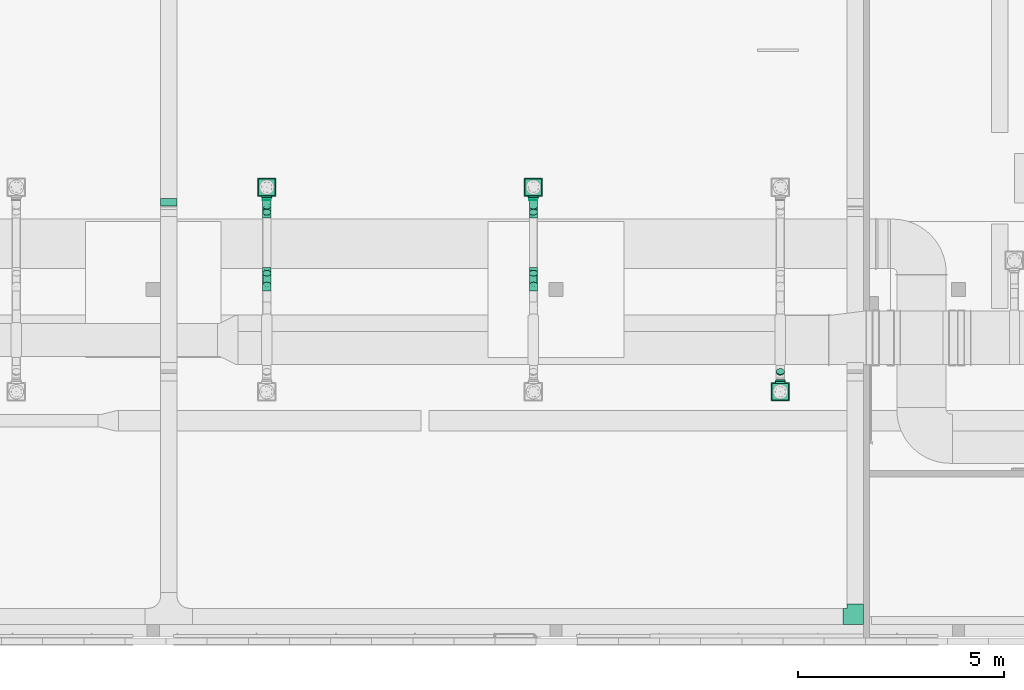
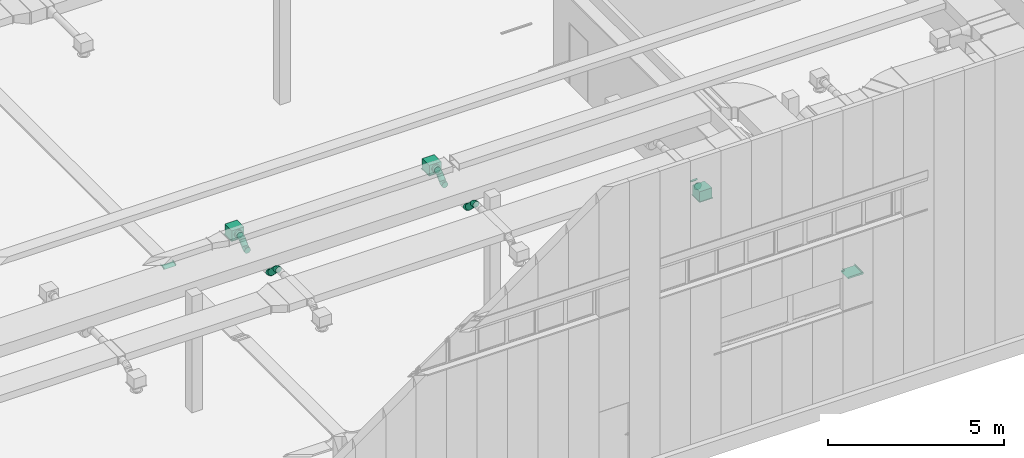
# One storey, part 278 of 302: 13 flow fittings, 7 flow segments, 3 flow terminals.
"""IFC2X3 building model written with IfcOpenShell, lengths in metres."""

from ifc_helpers import new_model, entity, si_unit, converted_unit, derived_unit, direction, frame, frame_2d, origin, origin_2d_with_axis, place, context, subcontext, project, spatial, rectangle, circle, extrude, faceted_brep, source, transform, mapped, material, material_list, type_object, type_shapes, element, save


model = new_model("IFC2X3")

# Units and contexts
model_context = context("Model", 3, precision=1e-05, world=origin(), true_north=direction((6.12303176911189e-17, 1.0)))
body_context = subcontext(model_context, "Body", "Model", "MODEL_VIEW")
ifc_project = project(units=[si_unit("LENGTHUNIT", "METRE"), si_unit("AREAUNIT", "SQUARE_METRE"), si_unit("VOLUMEUNIT", "CUBIC_METRE"), converted_unit("PLANEANGLEUNIT", "DEGREE", entity("IfcRatioMeasure", 0.0174532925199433), si_unit("PLANEANGLEUNIT", "RADIAN"), dimensions=[0, 0, 0, 0, 0, 0, 0]), si_unit("MASSUNIT", "GRAM", prefix="KILO"), derived_unit("MASSDENSITYUNIT", [(si_unit("MASSUNIT", "GRAM", prefix="KILO"), 1), (si_unit("LENGTHUNIT", "METRE"), -3)]), derived_unit("MOMENTOFINERTIAUNIT", [(si_unit("LENGTHUNIT", "METRE"), 4)]), si_unit("TIMEUNIT", "SECOND"), si_unit("FREQUENCYUNIT", "HERTZ"), si_unit("THERMODYNAMICTEMPERATUREUNIT", "DEGREE_CELSIUS"), derived_unit("THERMALTRANSMITTANCEUNIT", [(si_unit("MASSUNIT", "GRAM", prefix="KILO"), 1), (si_unit("THERMODYNAMICTEMPERATUREUNIT", "KELVIN"), -1), (si_unit("TIMEUNIT", "SECOND"), -3)]), derived_unit("VOLUMETRICFLOWRATEUNIT", [(si_unit("LENGTHUNIT", "METRE"), 3), (si_unit("TIMEUNIT", "SECOND"), -1)]), si_unit("ELECTRICCURRENTUNIT", "AMPERE"), si_unit("ELECTRICVOLTAGEUNIT", "VOLT"), si_unit("POWERUNIT", "WATT"), si_unit("FORCEUNIT", "NEWTON", prefix="KILO"), si_unit("ILLUMINANCEUNIT", "LUX"), si_unit("LUMINOUSFLUXUNIT", "LUMEN"), si_unit("LUMINOUSINTENSITYUNIT", "CANDELA"), derived_unit("USERDEFINED", [(si_unit("MASSUNIT", "GRAM", prefix="KILO"), -1), (si_unit("LENGTHUNIT", "METRE"), -2), (si_unit("TIMEUNIT", "SECOND"), 3), (si_unit("LUMINOUSFLUXUNIT", "LUMEN"), 1)]), derived_unit("LINEARVELOCITYUNIT", [(si_unit("LENGTHUNIT", "METRE"), 1), (si_unit("TIMEUNIT", "SECOND"), -1)]), si_unit("PRESSUREUNIT", "PASCAL"), derived_unit("USERDEFINED", [(si_unit("LENGTHUNIT", "METRE"), -2), (si_unit("MASSUNIT", "GRAM", prefix="KILO"), 1), (si_unit("TIMEUNIT", "SECOND"), -2)]), derived_unit("LINEARFORCEUNIT", [(si_unit("MASSUNIT", "GRAM", prefix="KILO"), 1), (si_unit("LENGTHUNIT", "METRE"), 1), (si_unit("TIMEUNIT", "SECOND"), -2), (si_unit("LENGTHUNIT", "METRE"), -1)]), derived_unit("PLANARFORCEUNIT", [(si_unit("MASSUNIT", "GRAM", prefix="KILO"), 1), (si_unit("LENGTHUNIT", "METRE"), 1), (si_unit("TIMEUNIT", "SECOND"), -2), (si_unit("LENGTHUNIT", "METRE"), -2)])], contexts=[model_context])

# Site, building, storey
site_placement = place(None, origin())
site = spatial("IfcSite", under=ifc_project, at=site_placement, Name="Default", CompositionType="ELEMENT")
building_placement = place(site_placement, origin())
building = spatial("IfcBuilding", under=site, at=building_placement, CompositionType="ELEMENT")
storey_placement = place(building_placement, frame((0.0, 0.0, -1.3)))
storey = spatial("IfcBuildingStorey", under=building, at=storey_placement, Name="00_EG", CompositionType="ELEMENT", Elevation=-1.3)

# Flow fittings
ifc_material = material(Name="<Unnamed>")
cable_carrier_fitting_type_1 = type_object("IfcCableCarrierFittingType", Name="Kabeltrasse - Bogen (Ecke) reduzierend:Standard", PredefinedType="NOTDEFINED", material=ifc_material)
shared_shape_1 = source(origin(), body_context, "Body", "Brep", [
    faceted_brep([(-0.299999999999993, -0.200000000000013, -0.0300000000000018), (-0.299999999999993, -0.200000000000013, 0.0299999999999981), (-0.299999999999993, -0.197460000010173, 0.0299999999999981), (-0.299999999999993, -0.197460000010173, -0.0274600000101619), (-0.299999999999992, 0.197460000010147, -0.0274600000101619), (-0.299999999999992, 0.197460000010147, 0.0299999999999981), (-0.299999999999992, 0.199999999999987, 0.0299999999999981), (-0.299999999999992, 0.199999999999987, -0.0300000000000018), (0.200000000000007, 0.299999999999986, -0.0300000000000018), (-0.199999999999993, 0.299999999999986, -0.0300000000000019), (-0.199999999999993, 0.299999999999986, 0.0299999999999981), (-0.197460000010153, 0.299999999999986, 0.0299999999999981), (-0.197460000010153, 0.299999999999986, -0.0274600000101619), (0.197460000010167, 0.299999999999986, -0.0274600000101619), (0.197460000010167, 0.299999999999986, 0.0299999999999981), (0.200000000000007, 0.299999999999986, 0.0299999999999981), (0.200000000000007, -0.200000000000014, -0.0300000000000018), (0.200000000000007, -0.200000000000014, 0.0299999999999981), (0.197460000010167, -0.197460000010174, 0.0299999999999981), (0.197460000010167, -0.197460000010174, -0.0274600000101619), (-0.197460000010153, 0.197460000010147, -0.0274600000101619), (-0.197460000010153, 0.197460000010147, 0.0299999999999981), (-0.199999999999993, 0.199999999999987, 0.0299999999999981), (-0.199999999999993, 0.199999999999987, -0.0300000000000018)], [[[0, 1, 2, 3, 4, 5, 6, 7]], [[8, 9, 10, 11, 12, 13, 14, 15]], [[1, 0, 16, 17]], [[2, 1, 17, 15, 14, 18]], [[3, 2, 18, 19]], [[4, 3, 19, 13, 12, 20]], [[5, 4, 20, 21]], [[6, 5, 21, 11, 10, 22]], [[7, 6, 22, 23]], [[0, 7, 23, 9, 8, 16]], [[17, 16, 8, 15]], [[19, 18, 14, 13]], [[21, 20, 12, 11]], [[23, 22, 10, 9]]]),
])
type_shapes(cable_carrier_fitting_type_1, [shared_shape_1])
flow_fitting_1_placement = place(storey_placement, frame((-220.085111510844, 15.4980889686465, 4.85)))
element("IfcFlowFitting", 1, at=flow_fitting_1_placement, inside=storey, type_object=cable_carrier_fitting_type_1, material=ifc_material, Name="Kabeltrasse - Bogen (Ecke) reduzierend:Standard", ObjectType="Kabeltrasse - Bogen (Ecke) reduzierend:Standard", context=body_context, shape_type="MappedRepresentation", body=[
    mapped(shared_shape_1, transform((0.0, 0.0, 0.0), scale=1.0)),
])
cable_carrier_fitting_type_2 = type_object("IfcCableCarrierFittingType", Name="Kabeltrasse - Bogen außen vertikal:Standard", PredefinedType="NOTDEFINED", material=ifc_material)
shared_shape_2 = source(origin(), body_context, "Body", "Brep", [
    faceted_brep([(-0.103233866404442, 0.0300000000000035, 0.199999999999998), (-0.103233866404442, 0.0300000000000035, 0.197460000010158), (-0.103233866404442, -0.0274600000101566, 0.197460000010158), (-0.103233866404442, -0.0274600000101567, -0.197460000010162), (-0.103233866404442, 0.0300000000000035, -0.197460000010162), (-0.103233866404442, 0.0300000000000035, -0.200000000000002), (-0.103233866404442, -0.0299999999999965, -0.200000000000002), (-0.103233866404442, -0.0299999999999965, 0.199999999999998), (0.105601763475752, -0.0201369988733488, 0.199999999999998), (0.0783623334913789, -0.0735973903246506, 0.199999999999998), (0.0783623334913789, -0.0735973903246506, -0.200000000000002), (0.105601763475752, -0.0201369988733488, -0.200000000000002), (0.105601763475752, -0.0201369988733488, -0.197460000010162), (0.0795154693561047, -0.071334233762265, -0.197460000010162), (0.0795154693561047, -0.071334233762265, 0.197460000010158), (0.105601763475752, -0.0201369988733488, 0.197460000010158), (-0.0558907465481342, -0.0299999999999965, 0.199999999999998), (0.036179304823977, -0.052104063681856, 0.199999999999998), (0.0570912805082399, 0.00458032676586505, 0.199999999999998), (-0.0487892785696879, 0.0300000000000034, 0.199999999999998), (-0.0558907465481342, -0.0299999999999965, -0.200000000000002), (-0.0487892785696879, 0.0300000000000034, -0.200000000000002), (0.0570912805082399, 0.00458032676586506, -0.200000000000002), (0.036179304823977, -0.052104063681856, -0.200000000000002), (-0.0487892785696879, 0.0300000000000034, -0.197460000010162), (-0.0555901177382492, -0.0274600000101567, -0.197460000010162), (0.0370645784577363, -0.0497044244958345, -0.197460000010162), (0.0570912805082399, 0.00458032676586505, -0.197460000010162), (-0.0555901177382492, -0.0274600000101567, 0.197460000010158), (-0.0487892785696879, 0.0300000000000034, 0.197460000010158), (0.0570912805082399, 0.00458032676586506, 0.197460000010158), (0.0370645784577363, -0.0497044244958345, 0.197460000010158)], [[[0, 1, 2, 3, 4, 5, 6, 7]], [[8, 9, 10, 11, 12, 13, 14, 15]], [[7, 16, 17, 9, 8, 18, 19, 0]], [[6, 20, 16, 7]], [[5, 21, 22, 11, 10, 23, 20, 6]], [[4, 24, 21, 5]], [[3, 25, 26, 13, 12, 27, 24, 4]], [[2, 28, 25, 3]], [[1, 29, 30, 15, 14, 31, 28, 2]], [[0, 19, 29, 1]], [[20, 23, 17, 16]], [[24, 27, 22, 21]], [[28, 31, 26, 25]], [[19, 18, 30, 29]], [[23, 10, 9, 17]], [[27, 12, 11, 22]], [[31, 14, 13, 26]], [[18, 8, 15, 30]]]),
])
type_shapes(cable_carrier_fitting_type_2, [shared_shape_2])
flow_fitting_2_placement = place(storey_placement, frame((-236.772611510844, 25.5558602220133, 4.85), z_axis=(1.0, 0.0, 0.0), x_axis=(0.0, 0.891006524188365, 0.453990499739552)))
element("IfcFlowFitting", 2, at=flow_fitting_2_placement, inside=storey, type_object=cable_carrier_fitting_type_2, material=ifc_material, Name="Kabeltrasse - Bogen außen vertikal:Standard", ObjectType="Kabeltrasse - Bogen außen vertikal:Standard", context=body_context, shape_type="MappedRepresentation", body=[
    mapped(shared_shape_2, transform((0.0, 0.0, 0.0), scale=1.0)),
])

# Flow segments
duct_segment_type = type_object("IfcDuctSegmentType", Name="Rund:STR_Segment_RND_GS_EA", PredefinedType="NOTDEFINED")
flow_segment_1_placement = place(storey_placement, origin())
element("IfcFlowSegment", 3, at=flow_segment_1_placement, inside=storey, type_object=duct_segment_type, Name="Rund:STR_Segment_RND_GS_EA", ObjectType="Rund:STR_Segment_RND_GS_EA", context=body_context, shape_type="SweptSolid", body=[
    extrude(circle(Radius=0.1, at=frame_2d((0.0, -3.06281271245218e-15), x_axis=(1.0, 0.0))), frame((-221.905155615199, 21.4325516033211, 5.04357873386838), z_axis=(0.0, 0.707106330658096, 0.707107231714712), x_axis=(1.0, 0.0, 0.0)), (0.0, 0.0, 1.0), 0.0323041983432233),
])
flow_segment_2_placement = place(storey_placement, origin())
element("IfcFlowSegment", 4, at=flow_segment_2_placement, inside=storey, type_object=duct_segment_type, Name="Rund:STR_Segment_RND_GS_EA", ObjectType="Rund:STR_Segment_RND_GS_EA", context=body_context, shape_type="SweptSolid", body=[
    extrude(circle(Radius=0.1, at=origin_2d_with_axis()), frame((-227.909394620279, 25.6179660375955, 4.985), z_axis=(0.0, 1.0, 0.0), x_axis=(-1.0, 0.0, 0.0)), (0.0, 0.0, 1.0), 0.017157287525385),
])
flow_segment_3_placement = place(storey_placement, origin())
element("IfcFlowSegment", 5, at=flow_segment_3_placement, inside=storey, type_object=duct_segment_type, Name="Rund:STR_Segment_RND_GS_EA", ObjectType="Rund:STR_Segment_RND_GS_EA", context=body_context, shape_type="SweptSolid", body=[
    extrude(circle(Radius=0.1, at=frame_2d((3.46517481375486e-14, 4.59421614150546e-15), x_axis=(1.0, 0.0))), frame((-227.909394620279, 25.3287019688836, 4.77857864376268), z_axis=(0.0, 0.707106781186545, 0.70710678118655), x_axis=(-1.0, 0.0, 0.0)), (0.0, 0.0, 1.0), 0.209081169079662),
])
flow_segment_4_placement = place(storey_placement, origin())
element("IfcFlowSegment", 6, at=flow_segment_4_placement, inside=storey, type_object=duct_segment_type, Name="Rund:STR_Segment_RND_GS_EA", ObjectType="Rund:STR_Segment_RND_GS_EA", context=body_context, shape_type="SweptSolid", body=[
    extrude(circle(Radius=0.1, at=origin_2d_with_axis()), frame((-227.909394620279, 23.8432369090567, 4.77857864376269), z_axis=(0.0, -0.707106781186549, 0.707106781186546), x_axis=(-1.0, 0.0, 0.0)), (0.0, 0.0, 1.0), 0.407071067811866),
])
flow_segment_5_placement = place(storey_placement, origin())
element("IfcFlowSegment", 7, at=flow_segment_5_placement, inside=storey, type_object=duct_segment_type, Name="Rund:STR_Segment_RND_GS_EA", ObjectType="Rund:STR_Segment_RND_GS_EA", context=body_context, shape_type="SweptSolid", body=[
    extrude(circle(Radius=0.1, at=origin_2d_with_axis()), frame((-234.389904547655, 25.6179660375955, 4.985), z_axis=(0.0, 1.0, 0.0), x_axis=(-1.0, 0.0, 0.0)), (0.0, 0.0, 1.0), 0.017157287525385),
])
flow_segment_6_placement = place(storey_placement, origin())
element("IfcFlowSegment", 8, at=flow_segment_6_placement, inside=storey, type_object=duct_segment_type, Name="Rund:STR_Segment_RND_GS_EA", ObjectType="Rund:STR_Segment_RND_GS_EA", context=body_context, shape_type="SweptSolid", body=[
    extrude(circle(Radius=0.1, at=frame_2d((3.46517481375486e-14, 4.59421614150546e-15), x_axis=(1.0, 0.0))), frame((-234.389904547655, 25.3287019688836, 4.77857864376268), z_axis=(0.0, 0.707106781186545, 0.70710678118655), x_axis=(-1.0, 0.0, 0.0)), (0.0, 0.0, 1.0), 0.209081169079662),
])
flow_segment_7_placement = place(storey_placement, origin())
element("IfcFlowSegment", 9, at=flow_segment_7_placement, inside=storey, type_object=duct_segment_type, Name="Rund:STR_Segment_RND_GS_EA", ObjectType="Rund:STR_Segment_RND_GS_EA", context=body_context, shape_type="SweptSolid", body=[
    extrude(circle(Radius=0.1, at=origin_2d_with_axis()), frame((-234.389904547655, 23.8432369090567, 4.77857864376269), z_axis=(0.0, -0.707106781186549, 0.707106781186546), x_axis=(-1.0, 0.0, 0.0)), (0.0, 0.0, 1.0), 0.407071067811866),
])

# Flow terminals
ifc_material_list_1 = material_list([ifc_material, ifc_material, ifc_material])
air_terminal_type_1 = type_object("IfcAirTerminalType", Name="Drallauslass Zuluft seitlich:600 quadratisch", PredefinedType="NOTDEFINED", material=ifc_material_list_1)
shared_shape_3 = source(origin(), body_context, "Body", "SweptSolid", [
    extrude(rectangle(XDim=0.449999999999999, YDim=0.450000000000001, at=origin_2d_with_axis()), frame((0.0, 0.0, 2.692), z_axis=(0.0, 0.0, 1.0), x_axis=(-1.0, 0.0, 0.0)), (0.0, 0.0, 1.0), 0.00800000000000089),
    extrude(circle(Radius=0.125, at=frame_2d((1.22275294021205e-18, 0.0), x_axis=(1.0, 0.0))), frame((-0.25, 0.0, 2.89500000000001), z_axis=(1.0, 0.0, 0.0), x_axis=(0.0, 1.0, 0.0)), (0.0, 0.0, 1.0), 0.0499999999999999),
    extrude(rectangle(XDim=0.399999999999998, YDim=0.4, at=origin_2d_with_axis()), frame((0.0, 0.0, 2.7), z_axis=(0.0, 0.0, 1.0), x_axis=(-1.0, 0.0, 0.0)), (0.0, 0.0, 1.0), 0.345000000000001),
])
type_shapes(air_terminal_type_1, [shared_shape_3])
for number, where, z_axis, x_axis, name in (
    (10, (-227.909394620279, 25.9351233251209, 2.08999999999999), (0.0, 0.0, 1.0), (0.0, 1.0, 0.0), "Drallauslass Zuluft seitlich:600 quadratisch"),
    (11, (-234.389904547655, 25.9351233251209, 2.08999999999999), (0.0, 0.0, 1.0), (0.0, 1.0, 0.0), "Drallauslass Zuluft seitlich:600 quadratisch"),
):
    element("IfcFlowTerminal", number, at=place(storey_placement, frame(where, z_axis=z_axis, x_axis=x_axis)), inside=storey, type_object=air_terminal_type_1, material=ifc_material, Name=name, ObjectType="Drallauslass Zuluft seitlich:600 quadratisch", context=body_context, shape_type="MappedRepresentation", body=[
        mapped(shared_shape_3, transform((0.0, 0.0, 0.0), scale=1.0)),
    ])
ifc_material_list_2 = material_list([ifc_material, ifc_material, ifc_material])
air_terminal_type_2 = type_object("IfcAirTerminalType", Name="Drallauslass Zuluft seitlich:600 quadratisch", PredefinedType="NOTDEFINED", material=ifc_material_list_2)
shared_shape_4 = source(origin(), body_context, "Body", "SweptSolid", [
    extrude(rectangle(XDim=0.450000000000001, YDim=0.449999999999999, at=origin_2d_with_axis()), frame((0.0, 0.0, 2.692), z_axis=(0.0, 0.0, 1.0), x_axis=(0.0, 1.0, 0.0)), (0.0, 0.0, 1.0), 0.00800000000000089),
    extrude(circle(Radius=0.125, at=frame_2d((1.22275294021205e-18, -5.41433564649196e-16), x_axis=(1.0, 0.0))), frame((-0.25, 0.0, 2.89500000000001), z_axis=(1.0, 0.0, 0.0), x_axis=(0.0, -1.0, 0.0)), (0.0, 0.0, 1.0), 0.0499999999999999),
    extrude(rectangle(XDim=0.4, YDim=0.399999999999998, at=origin_2d_with_axis()), frame((0.0, 0.0, 2.7), z_axis=(0.0, 0.0, 1.0), x_axis=(0.0, 1.0, 0.0)), (0.0, 0.0, 1.0), 0.345000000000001),
])
type_shapes(air_terminal_type_2, [shared_shape_4])
flow_terminal_placement = place(storey_placement, frame((-221.905155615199, 20.9618155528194, 2.08999999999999), z_axis=(0.0, 0.0, 1.0), x_axis=(0.0, -1.0, 0.0)))
element("IfcFlowTerminal", 12, at=flow_terminal_placement, inside=storey, type_object=air_terminal_type_2, material=ifc_material, Name="Drallauslass Zuluft seitlich:600 quadratisch", ObjectType="Drallauslass Zuluft seitlich:600 quadratisch", context=body_context, shape_type="MappedRepresentation", body=[
    mapped(shared_shape_4, transform((0.0, 0.0, 0.0), scale=1.0)),
])

# Flow fittings
duct_fitting_type_1 = type_object("IfcDuctFittingType", Name="STR_RND_Transition:STR_Transition_RND_GS_EA", PredefinedType="NOTDEFINED", material=ifc_material)
shared_shape_5 = source(origin(), body_context, "Body", "Brep", [
    faceted_brep([(0.0500000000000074, -0.0587785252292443, -0.0809016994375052), (0.0500000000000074, -0.0309016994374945, -0.0951056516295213), (0.0500000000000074, 0.0, -0.10000000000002), (0.0500000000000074, 0.0309016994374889, -0.0951056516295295), (0.0500000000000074, 0.058778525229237, -0.0809016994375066), (0.0500000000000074, 0.0809016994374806, -0.0587785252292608), (0.0500000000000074, 0.0951056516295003, -0.0309016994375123), (0.0500000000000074, 0.0999999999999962, 0.0), (0.0500000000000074, 0.0951056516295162, 0.0309016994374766), (0.0500000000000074, 0.0809016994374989, 0.0587785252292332), (0.0500000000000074, 0.0587785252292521, 0.0809016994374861), (0.0500000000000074, 0.0309016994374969, 0.0951056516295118), (0.0500000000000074, 0.0, 0.0999999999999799), (0.0500000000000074, -0.0309016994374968, 0.0951056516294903), (0.0500000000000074, -0.058778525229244, 0.0809016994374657), (0.0500000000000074, -0.0809016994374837, 0.0587785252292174), (0.0500000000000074, -0.0951056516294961, 0.0309016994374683), (0.0500000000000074, -0.100000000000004, 0.0), (0.0500000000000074, -0.0951056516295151, -0.030901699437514), (0.0500000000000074, -0.0809016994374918, -0.0587785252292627), (0.0, -0.124999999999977, 0.0), (0.0, -0.118882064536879, 0.038627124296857), (0.0, -0.101127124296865, 0.073473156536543), (0.0, -0.0734731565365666, 0.101127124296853), (0.0, -0.0386271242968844, 0.118882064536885), (0.0, 0.0, 0.125000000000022), (0.0, 0.0386271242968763, 0.11888206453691), (0.0, 0.0734731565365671, 0.101127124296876), (0.0, 0.101127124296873, 0.0734731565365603), (0.0, 0.118882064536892, 0.038627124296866), (0.0, 0.124999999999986, 0.0), (0.0, 0.118882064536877, -0.0386271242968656), (0.0, 0.101127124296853, -0.0734731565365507), (0.0, 0.0734731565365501, -0.101127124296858), (0.0, 0.0386271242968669, -0.118882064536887), (0.0, 0.0, -0.124999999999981), (0.0, -0.0386271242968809, -0.118882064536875), (0.0, -0.0734731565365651, -0.101127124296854), (0.0, -0.101127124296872, -0.0734731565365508), (0.0, -0.118882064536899, -0.0386271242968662)], [[[0, 1, 2, 3, 4, 5, 6, 7, 8, 9, 10, 11, 12, 13, 14, 15, 16, 17, 18, 19]], [[20, 21, 22, 23, 24, 25, 26, 27, 28, 29, 30, 31, 32, 33, 34, 35, 36, 37, 38, 39]], [[26, 25, 12, 11]], [[27, 26, 11, 10]], [[10, 9, 28, 27]], [[8, 7, 30, 29]], [[9, 8, 29, 28]], [[21, 20, 17, 16]], [[22, 21, 16, 15]], [[15, 14, 23, 22]], [[13, 12, 25, 24]], [[14, 13, 24, 23]], [[36, 35, 2, 1]], [[37, 36, 1, 0]], [[0, 19, 38, 37]], [[18, 17, 20, 39]], [[19, 18, 39, 38]], [[31, 30, 7, 6]], [[32, 31, 6, 5]], [[5, 4, 33, 32]], [[3, 2, 35, 34]], [[4, 3, 34, 33]]]),
])
type_shapes(duct_fitting_type_1, [shared_shape_5])
for number, where, z_axis, x_axis in (
    (13, (-221.905155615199, 21.2118155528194, 4.985), (0.0, 0.0, 1.0), (0.0, 1.0, 0.0)),
    (14, (-227.909394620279, 25.6851233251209, 4.985), (0.0, 0.0, 1.0), (0.0, -1.0, 0.0)),
    (15, (-234.389904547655, 25.6851233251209, 4.985), (0.0, 0.0, 1.0), (0.0, -1.0, 0.0)),
):
    element("IfcFlowFitting", number, at=place(storey_placement, frame(where, z_axis=z_axis, x_axis=x_axis)), inside=storey, type_object=duct_fitting_type_1, material=ifc_material, Name="STR_RND_Transition:STR_Transition_RND_GS_EA", ObjectType="STR_RND_Transition:STR_Transition_RND_GS_EA", context=body_context, shape_type="MappedRepresentation", body=[
        mapped(shared_shape_5, transform((0.0, 0.0, 0.0), scale=1.0)),
    ])
duct_fitting_type_2 = type_object("IfcDuctFittingType", Name="STR_RND_Elbow:STR_Elbow_RND_GS_EA", PredefinedType="NOTDEFINED", material=ifc_material)
shared_shape_6 = source(origin(), body_context, "Body", "Brep", [
    faceted_brep([(-0.043824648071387, 0.00384294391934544, 0.0999999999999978), (-0.0498532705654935, 0.034150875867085, 0.0951056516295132), (-0.0828427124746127, 0.0309016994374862, 0.0951056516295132), (-0.0828427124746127, 0.0, 0.0999999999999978), (-0.055291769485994, 0.0614920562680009, 0.0809016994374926), (-0.0828427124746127, 0.0587785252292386, 0.0809016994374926), (-0.0596077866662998, 0.0831901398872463, 0.0587785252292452), (-0.0828427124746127, 0.0809016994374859, 0.0587785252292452), (-0.0623788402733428, 0.0971211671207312, 0.0309016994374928), (-0.0828427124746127, 0.0951056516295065, 0.0309016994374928), (-0.0633336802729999, 0.101921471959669, 0.0), (-0.0828427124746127, 0.0999999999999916, 0.0), (-0.0623788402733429, 0.0971211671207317, -0.030901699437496), (-0.0828427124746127, 0.095105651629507, -0.030901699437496), (-0.0596077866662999, 0.0831901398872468, -0.0587785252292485), (-0.0828427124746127, 0.0809016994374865, -0.0587785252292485), (-0.0552917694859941, 0.0614920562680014, -0.0809016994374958), (-0.0828427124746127, 0.0587785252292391, -0.0809016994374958), (-0.0498532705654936, 0.0341508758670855, -0.0951056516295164), (-0.0828427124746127, 0.0309016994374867, -0.0951056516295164), (-0.0438246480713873, 0.00384294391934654, -0.100000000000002), (-0.0828427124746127, 0.0, -0.100000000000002), (-0.0377960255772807, -0.0264649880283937, -0.0951056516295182), (-0.0828427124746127, -0.0309016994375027, -0.0951056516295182), (-0.03235752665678, -0.0538061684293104, -0.0809016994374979), (-0.0828427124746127, -0.0587785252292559, -0.0809016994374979), (-0.028041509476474, -0.0755042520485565, -0.0587785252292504), (-0.0828427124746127, -0.080901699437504, -0.0587785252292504), (-0.0252704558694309, -0.089435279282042, -0.0309016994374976), (-0.0828427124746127, -0.0951056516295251, -0.0309016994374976), (-0.0243156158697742, -0.0942355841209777, 0.0), (-0.0828427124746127, -0.100000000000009, 0.0), (-0.0252704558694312, -0.0894352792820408, 0.0309016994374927), (-0.0828427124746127, -0.0951056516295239, 0.0309016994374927), (-0.0280415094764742, -0.0755042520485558, 0.0587785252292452), (-0.0828427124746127, -0.0809016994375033, 0.0587785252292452), (-0.0323575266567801, -0.0538061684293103, 0.0809016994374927), (-0.0828427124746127, -0.0587785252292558, 0.0809016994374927), (-0.0377960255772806, -0.0264649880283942, 0.0951056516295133), (-0.0828427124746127, -0.0309016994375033, 0.0951056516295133), (-0.00630602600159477, 0.0152240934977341, 0.0999999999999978), (-0.0181315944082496, 0.043773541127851, 0.0951056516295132), (-0.028799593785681, 0.0695283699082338, 0.0809016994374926), (-0.037265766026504, 0.0899675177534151, 0.0587785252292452), (-0.042701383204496, 0.103090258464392, 0.0309016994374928), (-0.0445743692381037, 0.107612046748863, 0.0), (-0.0427013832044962, 0.103090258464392, -0.030901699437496), (-0.0372657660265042, 0.0899675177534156, -0.0587785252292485), (-0.0287995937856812, 0.0695283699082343, -0.0809016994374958), (-0.0181315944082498, 0.0437735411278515, -0.0951056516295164), (-0.0063060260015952, 0.0152240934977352, -0.100000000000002), (0.00551954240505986, -0.0133253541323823, -0.0951056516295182), (0.0161875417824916, -0.0390801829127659, -0.0809016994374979), (0.0246537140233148, -0.0595193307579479, -0.0587785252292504), (0.0300893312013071, -0.072642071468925, -0.0309016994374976), (0.0319623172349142, -0.0771638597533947, 0.0), (0.0300893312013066, -0.0726420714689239, 0.0309016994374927), (0.0246537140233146, -0.0595193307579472, 0.0587785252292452), (0.0161875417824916, -0.0390801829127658, 0.0809016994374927), (0.00551954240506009, -0.0133253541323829, 0.0951056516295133), (0.0282713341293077, 0.0337060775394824, 0.0999999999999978), (0.0111032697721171, 0.0593999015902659, 0.0951056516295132), (-0.00438426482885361, 0.0825786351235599, 0.0809016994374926), (-0.0166752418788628, 0.100973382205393, 0.0587785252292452), (-0.024566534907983, 0.112783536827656, 0.0309016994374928), (-0.0272856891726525, 0.116853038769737, 0.0), (-0.0245665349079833, 0.112783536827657, -0.030901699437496), (-0.0166752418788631, 0.100973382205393, -0.0587785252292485), (-0.00438426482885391, 0.0825786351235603, -0.0809016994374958), (0.0111032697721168, 0.0593999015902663, -0.0951056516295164), (0.0282713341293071, 0.0337060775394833, -0.100000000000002), (0.0454393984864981, 0.00801225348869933, -0.0951056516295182), (0.0609269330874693, -0.0151664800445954, -0.0809016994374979), (0.0732179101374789, -0.0335612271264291, -0.0587785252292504), (0.0811092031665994, -0.0453713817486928, -0.0309016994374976), (0.0838283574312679, -0.0494408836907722, 0.0), (0.0811092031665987, -0.0453713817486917, 0.0309016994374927), (0.0732179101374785, -0.0335612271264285, 0.0587785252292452), (0.0609269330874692, -0.0151664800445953, 0.0809016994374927), (0.0454393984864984, 0.00801225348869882, 0.0951056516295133), (0.0585786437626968, 0.0585786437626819, 0.0999999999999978), (0.0367278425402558, 0.0804294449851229, 0.0951056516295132), (0.0170159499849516, 0.100141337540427, 0.0809016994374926), (0.00137250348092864, 0.11578478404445, 0.0587785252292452), (-0.00867120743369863, 0.125828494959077, 0.0309016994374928), (-0.012132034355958, 0.129289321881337, 0.0), (-0.00867120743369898, 0.125828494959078, -0.030901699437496), (0.00137250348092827, 0.115784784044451, -0.0587785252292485), (0.0170159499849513, 0.100141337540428, -0.0809016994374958), (0.0367278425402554, 0.0804294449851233, -0.0951056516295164), (0.058578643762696, 0.0585786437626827, -0.100000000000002), (0.0804294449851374, 0.0367278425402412, -0.0951056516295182), (0.100141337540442, 0.0170159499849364, -0.0809016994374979), (0.115784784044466, 0.00137250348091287, -0.0587785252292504), (0.125828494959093, -0.0086712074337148, -0.0309016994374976), (0.129289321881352, -0.012132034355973, 0.0), (0.125828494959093, -0.00867120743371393, 0.0309016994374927), (0.115784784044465, 0.00137250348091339, 0.0587785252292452), (0.100141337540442, 0.0170159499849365, 0.0809016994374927), (0.0804294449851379, 0.0367278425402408, 0.0951056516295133)], [[[0, 1, 2, 3]], [[1, 4, 5, 2]], [[4, 6, 7, 5]], [[6, 8, 9, 7]], [[8, 10, 11, 9]], [[10, 12, 13, 11]], [[12, 14, 15, 13]], [[14, 16, 17, 15]], [[16, 18, 19, 17]], [[18, 20, 21, 19]], [[20, 22, 23, 21]], [[22, 24, 25, 23]], [[24, 26, 27, 25]], [[26, 28, 29, 27]], [[28, 30, 31, 29]], [[30, 32, 33, 31]], [[32, 34, 35, 33]], [[34, 36, 37, 35]], [[36, 38, 39, 37]], [[38, 0, 3, 39]], [[40, 41, 1, 0]], [[41, 42, 4, 1]], [[42, 43, 6, 4]], [[43, 44, 8, 6]], [[44, 45, 10, 8]], [[45, 46, 12, 10]], [[46, 47, 14, 12]], [[47, 48, 16, 14]], [[48, 49, 18, 16]], [[49, 50, 20, 18]], [[50, 51, 22, 20]], [[51, 52, 24, 22]], [[52, 53, 26, 24]], [[53, 54, 28, 26]], [[54, 55, 30, 28]], [[55, 56, 32, 30]], [[56, 57, 34, 32]], [[57, 58, 36, 34]], [[58, 59, 38, 36]], [[59, 40, 0, 38]], [[60, 61, 41, 40]], [[61, 62, 42, 41]], [[62, 63, 43, 42]], [[63, 64, 44, 43]], [[64, 65, 45, 44]], [[65, 66, 46, 45]], [[66, 67, 47, 46]], [[67, 68, 48, 47]], [[68, 69, 49, 48]], [[69, 70, 50, 49]], [[70, 71, 51, 50]], [[71, 72, 52, 51]], [[72, 73, 53, 52]], [[73, 74, 54, 53]], [[74, 75, 55, 54]], [[75, 76, 56, 55]], [[76, 77, 57, 56]], [[77, 78, 58, 57]], [[78, 79, 59, 58]], [[79, 60, 40, 59]], [[80, 81, 61, 60]], [[81, 82, 62, 61]], [[82, 83, 63, 62]], [[83, 84, 64, 63]], [[84, 85, 65, 64]], [[85, 86, 66, 65]], [[86, 87, 67, 66]], [[87, 88, 68, 67]], [[88, 89, 69, 68]], [[89, 90, 70, 69]], [[90, 91, 71, 70]], [[91, 92, 72, 71]], [[92, 93, 73, 72]], [[93, 94, 74, 73]], [[94, 95, 75, 74]], [[95, 96, 76, 75]], [[96, 97, 77, 76]], [[97, 98, 78, 77]], [[98, 99, 79, 78]], [[99, 80, 60, 79]], [[3, 2, 5, 7, 9, 11, 13, 15, 17, 19, 21, 23, 25, 27, 29, 31, 33, 35, 37, 39]], [[99, 98, 97, 96, 95, 94, 93, 92, 91, 90, 89, 88, 87, 86, 85, 84, 83, 82, 81, 80]]]),
])
type_shapes(duct_fitting_type_2, [shared_shape_6])
for number, where, z_axis, x_axis in (
    (16, (-227.909394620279, 25.5351233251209, 4.985), (1.0, 0.0, 0.0), (0.0, -1.0, 0.0)),
    (17, (-227.909394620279, 25.2701233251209, 4.72), (-1.0, 0.0, 0.0), (0.0, -0.707106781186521, -0.707106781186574)),
    (18, (-227.909394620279, 23.9018155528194, 4.72000000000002), (-1.0, 0.0, 0.0), (0.0, -1.0, 0.0)),
    (19, (-227.909394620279, 23.4968155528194, 5.12500000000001), (-1.0, 0.0, 0.0), (0.0, 1.0, 0.0)),
    (20, (-234.389904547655, 25.5351233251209, 4.985), (1.0, 0.0, 0.0), (0.0, -1.0, 0.0)),
    (21, (-234.389904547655, 25.2701233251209, 4.72), (-1.0, 0.0, 0.0), (0.0, -0.707106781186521, -0.707106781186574)),
    (22, (-234.389904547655, 23.9018155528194, 4.72000000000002), (-1.0, 0.0, 0.0), (0.0, -1.0, 0.0)),
    (23, (-234.389904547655, 23.4968155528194, 5.12500000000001), (-1.0, 0.0, 0.0), (0.0, 1.0, 0.0)),
):
    element("IfcFlowFitting", number, at=place(storey_placement, frame(where, z_axis=z_axis, x_axis=x_axis)), inside=storey, type_object=duct_fitting_type_2, material=ifc_material, Name="STR_RND_Elbow:STR_Elbow_RND_GS_EA", ObjectType="STR_RND_Elbow:STR_Elbow_RND_GS_EA", context=body_context, shape_type="MappedRepresentation", body=[
        mapped(shared_shape_6, transform((0.0, 0.0, 0.0), scale=1.0)),
    ])

save(model, "model.ifc")
